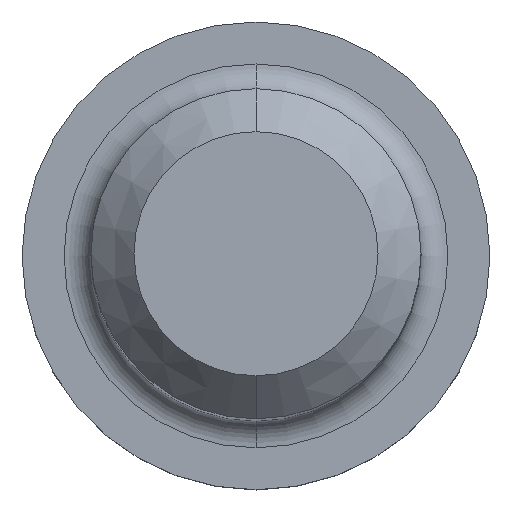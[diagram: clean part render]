
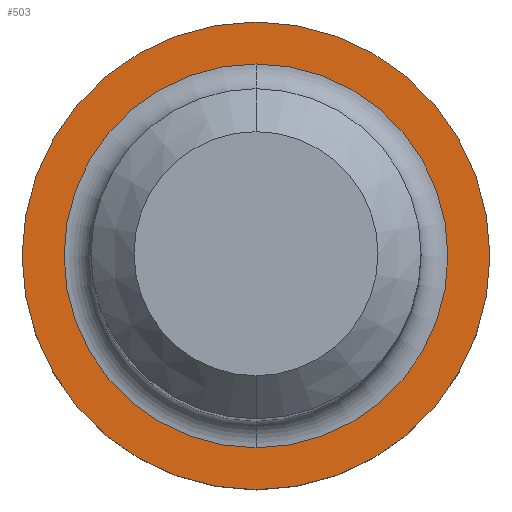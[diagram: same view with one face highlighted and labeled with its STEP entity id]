
A CAD part, top view. The second image highlights one B-rep face of the part: STEP entity #503.
In plain terms, the highlighted planar face has unit normal (0, 0, 1).
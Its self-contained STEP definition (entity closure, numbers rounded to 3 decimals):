
#142=CARTESIAN_POINT('',(0.,0.,-11.65));
#143=DIRECTION('',(0.,0.,-1.));
#144=DIRECTION('',(0.,1.,0.));
#145=AXIS2_PLACEMENT_3D('',#142,#143,#144);
#147=CARTESIAN_POINT('',(0.,0.,-11.65));
#148=DIRECTION('',(0.,0.,1.));
#149=DIRECTION('',(0.,1.,0.));
#150=AXIS2_PLACEMENT_3D('',#147,#148,#149);
#162=CARTESIAN_POINT('',(0.,0.,-11.65));
#163=DIRECTION('',(0.,0.,1.));
#164=DIRECTION('',(0.,1.,0.));
#165=AXIS2_PLACEMENT_3D('',#162,#163,#164);
#167=CARTESIAN_POINT('',(0.,0.,-11.65));
#168=DIRECTION('',(0.,0.,-1.));
#169=DIRECTION('',(0.,1.,0.));
#170=AXIS2_PLACEMENT_3D('',#167,#168,#169);
#338=CARTESIAN_POINT('',(0.,2.175,-11.65));
#339=VERTEX_POINT('',#338);
#340=CARTESIAN_POINT('',(0.,1.785,-11.65));
#342=VERTEX_POINT('',#340);
#352=CARTESIAN_POINT('',(0.,-2.175,-11.65));
#353=VERTEX_POINT('',#352);
#354=CARTESIAN_POINT('',(0.,-1.785,-11.65));
#356=VERTEX_POINT('',#354);
#488=CARTESIAN_POINT('',(0.,0.,-11.65));
#489=DIRECTION('',(0.,0.,-1.));
#490=DIRECTION('',(0.,-1.,0.));
#491=AXIS2_PLACEMENT_3D('',#488,#489,#490);
#492=PLANE('',#491);
#493=ORIENTED_EDGE('',*,*,#470,.T.);
#494=ORIENTED_EDGE('',*,*,#481,.F.);
#495=EDGE_LOOP('',(#493,#494));
#496=FACE_OUTER_BOUND('',#495,.F.);
#498=ORIENTED_EDGE('',*,*,#497,.T.);
#500=ORIENTED_EDGE('',*,*,#499,.F.);
#501=EDGE_LOOP('',(#498,#500));
#502=FACE_BOUND('',#501,.F.);
#503=ADVANCED_FACE('',(#496,#502),#492,.F.);
#146=CIRCLE('',#145,2.175);
#151=CIRCLE('',#150,2.175);
#166=CIRCLE('',#165,1.785);
#171=CIRCLE('',#170,1.785);
#470=EDGE_CURVE('',#339,#353,#146,.T.);
#481=EDGE_CURVE('',#339,#353,#151,.T.);
#497=EDGE_CURVE('',#342,#356,#166,.T.);
#499=EDGE_CURVE('',#342,#356,#171,.T.);
